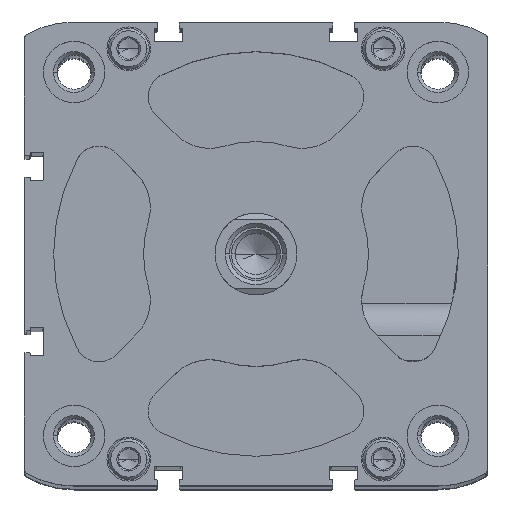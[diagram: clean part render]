
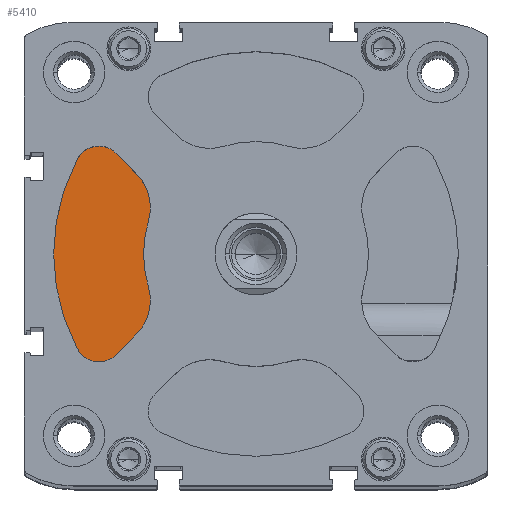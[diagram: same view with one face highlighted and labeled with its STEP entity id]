
A CAD part, top view. The second image highlights one B-rep face of the part: STEP entity #5410.
In plain terms, the highlighted planar face has unit normal (0, 0, 1).
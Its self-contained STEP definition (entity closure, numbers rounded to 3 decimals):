
#126 = AXIS2_PLACEMENT_3D ( 'NONE', #11882, #10640, #16936 ) ;
#177 = EDGE_CURVE ( 'NONE', #16751, #988, #6674, .T. ) ;
#237 = CARTESIAN_POINT ( 'NONE',  ( -26.345, -7.885, -18.8 ) ) ;
#400 = CIRCLE ( 'NONE', #17466, 6. ) ;
#426 = EDGE_CURVE ( 'NONE', #14775, #8503, #7994, .T. ) ;
#428 = EDGE_CURVE ( 'NONE', #16774, #988, #9319, .T. ) ;
#988 = VERTEX_POINT ( 'NONE', #237 ) ;
#1380 = LINE ( 'NONE', #8027, #14915 ) ;
#1516 = CARTESIAN_POINT ( 'NONE',  ( -43.724, -23.205, -18.8 ) ) ;
#1677 = DIRECTION ( 'NONE',  ( -0.707, 0.707, 0. ) ) ;
#1810 = DIRECTION ( 'NONE',  ( 0., 0., 1. ) ) ;
#2007 = EDGE_CURVE ( 'NONE', #4294, #7798, #1380, .T. ) ;
#2026 = CIRCLE ( 'NONE', #18446, 6. ) ;
#3239 = CARTESIAN_POINT ( 'NONE',  ( -38.424, -20.393, -18.8 ) ) ;
#3709 = CIRCLE ( 'NONE', #12885, 12. ) ;
#4294 = VERTEX_POINT ( 'NONE', #12798 ) ;
#4333 = EDGE_CURVE ( 'NONE', #7798, #16525, #400, .T. ) ;
#5060 = VERTEX_POINT ( 'NONE', #7581 ) ;
#5358 = CARTESIAN_POINT ( 'NONE',  ( -37.842, 11.325, -18.8 ) ) ;
#5410 = ADVANCED_FACE ( 'NONE', ( #8996 ), #5612, .T. ) ;
#5612 = PLANE ( 'NONE',  #126 ) ;
#5716 = DIRECTION ( 'NONE',  ( 0., 1., 0. ) ) ;
#5853 = ORIENTED_EDGE ( 'NONE', *, *, #4333, .T. ) ;
#5871 = DIRECTION ( 'NONE',  ( 0., 0., 1. ) ) ;
#6415 = ORIENTED_EDGE ( 'NONE', *, *, #177, .F. ) ;
#6674 = CIRCLE ( 'NONE', #14564, 27.5 ) ;
#6878 = DIRECTION ( 'NONE',  ( 0., 1., 0. ) ) ;
#7581 = CARTESIAN_POINT ( 'NONE',  ( -43.724, 23.205, -18.8 ) ) ;
#7798 = VERTEX_POINT ( 'NONE', #9004 ) ;
#7844 = CARTESIAN_POINT ( 'NONE',  ( -37.842, -11.325, -18.8 ) ) ;
#7994 = CIRCLE ( 'NONE', #18205, 6. ) ;
#8027 = CARTESIAN_POINT ( 'NONE',  ( -29.356, 19.81, -18.8 ) ) ;
#8413 = CARTESIAN_POINT ( 'NONE',  ( -29.356, -19.81, -18.8 ) ) ;
#8483 = AXIS2_PLACEMENT_3D ( 'NONE', #14777, #11897, #10551 ) ;
#8503 = VERTEX_POINT ( 'NONE', #9474 ) ;
#8747 = CARTESIAN_POINT ( 'NONE',  ( -38.424, 26.393, -18.8 ) ) ;
#8789 = CARTESIAN_POINT ( 'NONE',  ( -38.424, 20.393, -18.8 ) ) ;
#8996 = FACE_OUTER_BOUND ( 'NONE', #14253, .T. ) ;
#9004 = CARTESIAN_POINT ( 'NONE',  ( -34.181, 24.635, -18.8 ) ) ;
#9319 = CIRCLE ( 'NONE', #19188, 12. ) ;
#9474 = CARTESIAN_POINT ( 'NONE',  ( -34.181, -24.635, -18.8 ) ) ;
#9765 = EDGE_CURVE ( 'NONE', #16525, #5060, #2026, .T. ) ;
#10114 = CARTESIAN_POINT ( 'NONE',  ( -34.181, -24.635, -18.8 ) ) ;
#10118 = CIRCLE ( 'NONE', #8483, 49.5 ) ;
#10551 = DIRECTION ( 'NONE',  ( 0., 1., 0. ) ) ;
#10640 = DIRECTION ( 'NONE',  ( 0., 0., 1. ) ) ;
#11629 = CARTESIAN_POINT ( 'NONE',  ( -38.424, 20.393, -18.8 ) ) ;
#11760 = LINE ( 'NONE', #10114, #18997 ) ;
#11761 = DIRECTION ( 'NONE',  ( 0., 0., 1. ) ) ;
#11882 = CARTESIAN_POINT ( 'NONE',  ( 0., 0., -18.8 ) ) ;
#11897 = DIRECTION ( 'NONE',  ( 0., 0., 1. ) ) ;
#12798 = CARTESIAN_POINT ( 'NONE',  ( -29.356, 19.81, -18.8 ) ) ;
#12885 = AXIS2_PLACEMENT_3D ( 'NONE', #5358, #13262, #6878 ) ;
#12984 = DIRECTION ( 'NONE',  ( 0., 1., 0. ) ) ;
#13262 = DIRECTION ( 'NONE',  ( 0., 0., 1. ) ) ;
#13473 = EDGE_CURVE ( 'NONE', #8503, #16774, #11760, .T. ) ;
#13591 = DIRECTION ( 'NONE',  ( 0., 1., 0. ) ) ;
#14122 = DIRECTION ( 'NONE',  ( 0., 0., 1. ) ) ;
#14206 = EDGE_CURVE ( 'NONE', #5060, #14775, #10118, .T. ) ;
#14253 = EDGE_LOOP ( 'NONE', ( #19068, #16423, #17552, #19353, #6415, #16713, #14998, #5853, #19616 ) ) ;
#14536 = DIRECTION ( 'NONE',  ( 0., 1., 0. ) ) ;
#14564 = AXIS2_PLACEMENT_3D ( 'NONE', #17955, #11761, #5716 ) ;
#14775 = VERTEX_POINT ( 'NONE', #1516 ) ;
#14777 = CARTESIAN_POINT ( 'NONE',  ( 0., 0., -18.8 ) ) ;
#14915 = VECTOR ( 'NONE', #1677, 1000. ) ;
#14998 = ORIENTED_EDGE ( 'NONE', *, *, #2007, .T. ) ;
#16312 = DIRECTION ( 'NONE',  ( 0., 0., 1. ) ) ;
#16423 = ORIENTED_EDGE ( 'NONE', *, *, #426, .T. ) ;
#16525 = VERTEX_POINT ( 'NONE', #8747 ) ;
#16530 = DIRECTION ( 'NONE',  ( 0., 1., 0. ) ) ;
#16713 = ORIENTED_EDGE ( 'NONE', *, *, #18972, .T. ) ;
#16751 = VERTEX_POINT ( 'NONE', #17993 ) ;
#16774 = VERTEX_POINT ( 'NONE', #8413 ) ;
#16936 = DIRECTION ( 'NONE',  ( 1., 0., 0. ) ) ;
#17466 = AXIS2_PLACEMENT_3D ( 'NONE', #8789, #16312, #16530 ) ;
#17552 = ORIENTED_EDGE ( 'NONE', *, *, #13473, .T. ) ;
#17955 = CARTESIAN_POINT ( 'NONE',  ( 0., 0., -18.8 ) ) ;
#17993 = CARTESIAN_POINT ( 'NONE',  ( -26.345, 7.885, -18.8 ) ) ;
#18205 = AXIS2_PLACEMENT_3D ( 'NONE', #3239, #1810, #14536 ) ;
#18446 = AXIS2_PLACEMENT_3D ( 'NONE', #11629, #5871, #13591 ) ;
#18972 = EDGE_CURVE ( 'NONE', #16751, #4294, #3709, .T. ) ;
#18997 = VECTOR ( 'NONE', #19398, 1000. ) ;
#19068 = ORIENTED_EDGE ( 'NONE', *, *, #14206, .T. ) ;
#19188 = AXIS2_PLACEMENT_3D ( 'NONE', #7844, #14122, #12984 ) ;
#19353 = ORIENTED_EDGE ( 'NONE', *, *, #428, .T. ) ;
#19398 = DIRECTION ( 'NONE',  ( 0.707, 0.707, 0. ) ) ;
#19616 = ORIENTED_EDGE ( 'NONE', *, *, #9765, .T. ) ;
